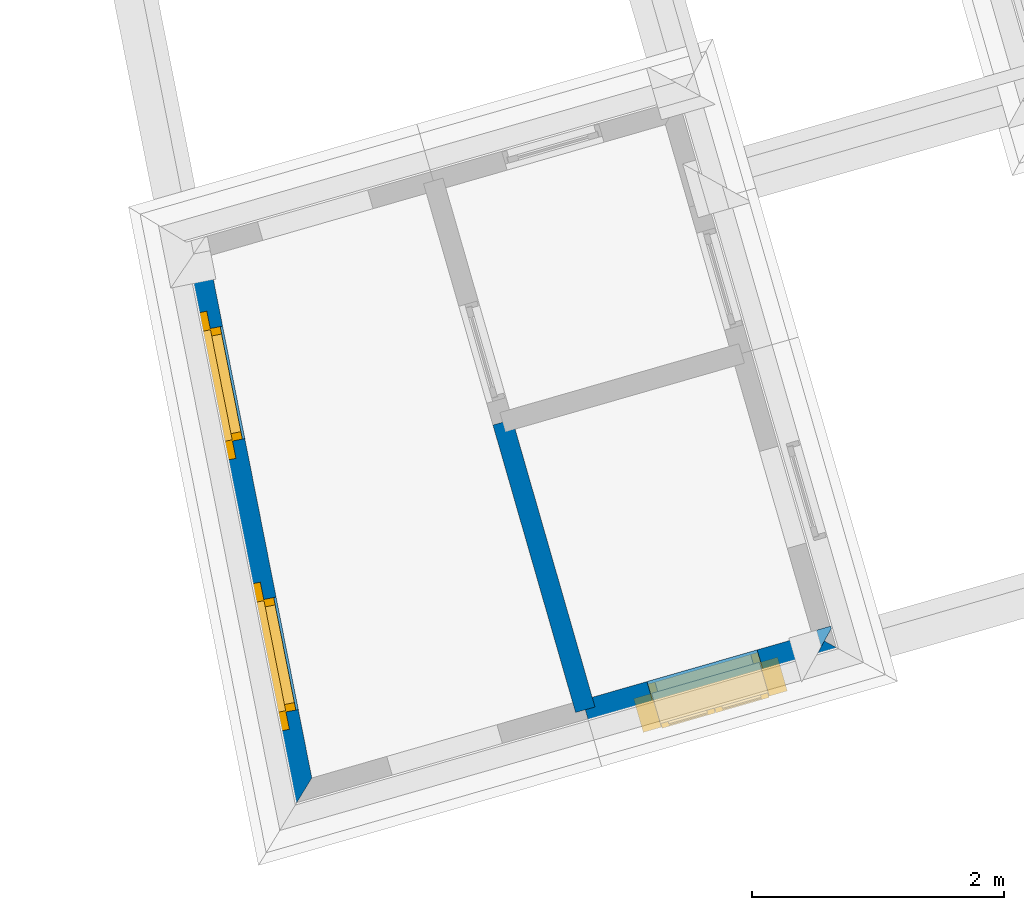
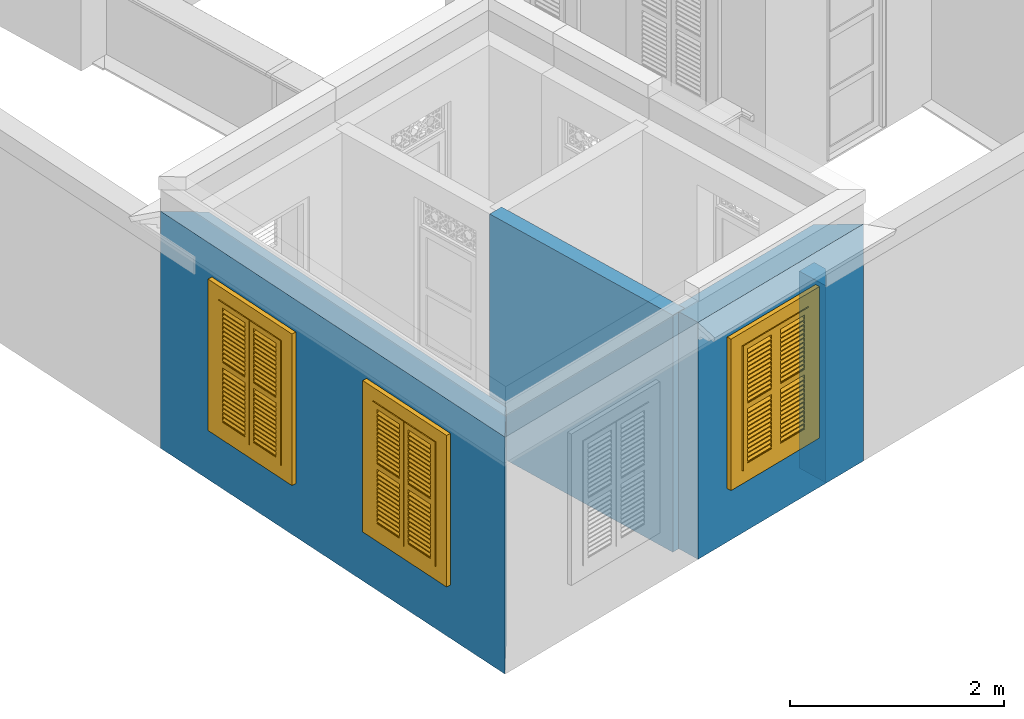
# One storey, part 2 of 22: 4 walls, 3 windows, 3 openings.
"""IFC4 building model written with IfcOpenShell, lengths in metres."""

from ifc_helpers import new_model, si_unit, frame, origin, origin_with_axes, place, context, subcontext, project, spatial, polyline, outline, extrude, clip, halfspace, faceted_brep, source, transform, mapped, material, layer, layer_set, layer_usage, material_profile, profile_set, profile_usage, type_object, type_shapes, element, fill, save


model = new_model("IFC4")

# Units and contexts
model_context = context("Model", 3, world=origin_with_axes())
body_context = subcontext(model_context, "Body", "Model", "MODEL_VIEW")
ifc_project = project(units=[si_unit("PLANEANGLEUNIT", "RADIAN"), si_unit("MASSUNIT", "GRAM", prefix="KILO"), si_unit("FORCEUNIT", "NEWTON", prefix="KILO"), si_unit("LENGTHUNIT", "METRE"), si_unit("AREAUNIT", "SQUARE_METRE"), si_unit("VOLUMEUNIT", "CUBIC_METRE")], contexts=[model_context, model_context])

# Site, building, storey
site_placement = place(None, origin_with_axes())
site = spatial("IfcSite", under=ifc_project, at=site_placement, Name="Site plot-9", CompositionType="ELEMENT")
building_placement = place(None, origin_with_axes())
building = spatial("IfcBuilding", under=site, at=building_placement, Name="Building plot-9", CompositionType="ELEMENT")
storey_placement = place(None, frame((0.0, 0.0, 2.85), z_axis=(0.0, 0.0, 1.0), x_axis=(1.0, 0.0, 0.0)))
storey = spatial("IfcBuildingStorey", under=building, at=storey_placement, Name="plot-9 1", CompositionType="ELEMENT", Elevation=2.85)

# Wall, openings, windows
ifc_material_1 = material(Name="Masonry")
ifc_layer_1 = layer(ifc_material_1, 0.33, ventilated=False)
ifc_layer_set_1 = layer_set([ifc_layer_1], Name="exterior_0.08_0.25")
ifc_layer_usage_1 = layer_usage(ifc_layer_set_1, "AXIS2", "POSITIVE", -0.25)
wall_type_1 = type_object("IfcWallType", Name="exterior_0.08_0.25", PredefinedType="SOLIDWALL", material=ifc_layer_set_1)
wall_1_placement = place(storey_placement, frame((-21.0720592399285, -2.48578105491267, 0.0), z_axis=(0.0, 0.0, 1.0), x_axis=(0.193675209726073, -0.981065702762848, 0.0)))
wall_1 = element("IfcWall", 1, at=wall_1_placement, inside=storey, type_object=wall_type_1, material=ifc_layer_usage_1, Name="exterior", context=body_context, shape_type="SweptSolid", body=[
    extrude(outline(polyline([(0.0734537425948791, 0.080000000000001), (-0.229542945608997, -0.25), (4.65454442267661, -0.25), (4.29513455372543, 0.0800000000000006), (0.0734537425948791, 0.080000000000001)])), origin_with_axes(), (0.0, 0.0, 1.0), 2.7),
])
opening_1_placement = place(wall_1_placement, frame((0.640566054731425, 0.0, 0.75)))
opening_1 = element("IfcOpeningElement", 2, at=opening_1_placement, cuts=wall_1, Name="My Opening", ObjectType="Opening", context=body_context, shape_type="SweptSolid", body=[
    extrude(outline(polyline([(0.0, -0.269999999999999), (0.91, -0.270000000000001), (0.91, 1.1), (1.11022302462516e-16, 1.1), (0.0, -0.269999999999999)])), origin_with_axes(), (0.0, 0.0, 1.0), 1.445),
])
opening_2_placement = place(wall_1_placement, frame((2.83169816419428, 0.0, 0.75)))
opening_2 = element("IfcOpeningElement", 3, at=opening_2_placement, cuts=wall_1, Name="My Opening", ObjectType="Opening", context=body_context, shape_type="SweptSolid", body=[
    extrude(outline(polyline([(0.0, -0.269999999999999), (0.91, -0.270000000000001), (0.91, 1.1), (0.0, 1.1), (0.0, -0.269999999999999)])), origin_with_axes(), (0.0, 0.0, 1.0), 1.445),
])
window_type = type_object("IfcWindowType", Name="shuttered_shorter", PartitioningType="DOUBLE_PANEL_HORIZONTAL", PredefinedType="NOTDEFINED")
shared_shape = source(origin(), body_context, "Body", "Brep", [
    faceted_brep([(0.393, 0.0, 0.622), (0.074, 0.0, 0.622), (0.074, 0.0, 0.632), (0.393, 0.0, 0.632), (0.074, -0.04, 0.592), (0.393, -0.04, 0.592), (0.393, -0.04, 0.582), (0.074, -0.04, 0.582), (0.517, 0.0, 0.682), (0.836, 0.0, 0.682), (0.836, 0.0, 0.672), (0.517, 0.0, 0.672), (0.517, -0.04, 0.642), (0.836, -0.04, 0.642), (0.836, -0.04, 0.632), (0.517, -0.04, 0.632), (0.517, 0.0, 0.632), (0.836, 0.0, 0.632), (0.836, 0.0, 0.622), (0.517, 0.0, 0.622), (0.517, -0.04, 0.592), (0.836, -0.04, 0.592), (0.836, -0.04, 0.582), (0.517, -0.04, 0.582), (0.517, 0.0, 0.232), (0.836, 0.0, 0.232), (0.836, 0.0, 0.222), (0.517, 0.0, 0.222), (0.517, -0.04, 0.192), (0.836, -0.04, 0.192), (0.836, -0.04, 0.182), (0.517, -0.04, 0.182), (0.517, 0.0, 0.532), (0.836, 0.0, 0.532), (0.836, 0.0, 0.522), (0.517, 0.0, 0.522), (0.517, -0.04, 0.492), (0.836, -0.04, 0.492), (0.836, -0.04, 0.482), (0.517, -0.04, 0.482), (0.517, 0.0, 0.482), (0.836, 0.0, 0.482), (0.836, 0.0, 0.472), (0.517, 0.0, 0.472), (0.517, -0.04, 0.442), (0.836, -0.04, 0.442), (0.836, -0.04, 0.432), (0.517, -0.04, 0.432), (0.517, 0.0, 0.582), (0.836, 0.0, 0.582), (0.836, 0.0, 0.572), (0.517, 0.0, 0.572), (0.517, -0.04, 0.542), (0.836, -0.04, 0.542), (0.836, -0.04, 0.532), (0.517, -0.04, 0.532), (0.517, 0.0, 0.182), (0.836, 0.0, 0.182), (0.836, 0.0, 0.172), (0.517, 0.0, 0.172), (0.517, -0.04, 0.142), (0.836, -0.04, 0.142), (0.836, -0.04, 0.132), (0.517, -0.04, 0.132), (0.517, 0.0, 0.382), (0.836, 0.0, 0.382), (0.836, 0.0, 0.372), (0.517, 0.0, 0.372), (0.517, -0.04, 0.342), (0.836, -0.04, 0.342), (0.836, -0.04, 0.332), (0.517, -0.04, 0.332), (0.517, 0.0, 0.432), (0.836, 0.0, 0.432), (0.836, 0.0, 0.422), (0.517, 0.0, 0.422), (0.517, -0.04, 0.392), (0.836, -0.04, 0.392), (0.836, -0.04, 0.382), (0.517, -0.04, 0.382), (0.517, 0.0, 0.132), (0.836, 0.0, 0.132), (0.836, 0.0, 0.122), (0.517, 0.0, 0.122), (0.517, -0.04, 0.092), (0.836, -0.04, 0.092), (0.836, -0.04, 0.082), (0.517, -0.04, 0.082), (0.517, 0.0, 0.282), (0.836, 0.0, 0.282), (0.836, 0.0, 0.272), (0.517, 0.0, 0.272), (0.517, -0.04, 0.242), (0.836, -0.04, 0.242), (0.836, -0.04, 0.232), (0.517, -0.04, 0.232), (0.517, 0.0, 0.332), (0.836, 0.0, 0.332), (0.836, 0.0, 0.322), (0.517, 0.0, 0.322), (0.517, -0.04, 0.292), (0.836, -0.04, 0.292), (0.836, -0.04, 0.282), (0.517, -0.04, 0.282), (0.517, 0.0, 1.362667), (0.836, 0.0, 1.362667), (0.836, 0.0, 1.352667), (0.517, 0.0, 1.352667), (0.517, -0.04, 1.322667), (0.836, -0.04, 1.322667), (0.836, -0.04, 1.312667), (0.517, -0.04, 1.312667), (0.517, 0.0, 1.312667), (0.836, 0.0, 1.312667), (0.836, 0.0, 1.302667), (0.517, 0.0, 1.302667), (0.517, -0.04, 1.272667), (0.836, -0.04, 1.272667), (0.836, -0.04, 1.262667), (0.517, -0.04, 1.262667), (0.517, 0.0, 0.912667), (0.836, 0.0, 0.912667), (0.836, 0.0, 0.902667), (0.517, 0.0, 0.902667), (0.517, -0.04, 0.872667), (0.836, -0.04, 0.872667), (0.836, -0.04, 0.862667), (0.517, -0.04, 0.862667), (0.517, 0.0, 1.212667), (0.836, 0.0, 1.212667), (0.836, 0.0, 1.202667), (0.517, 0.0, 1.202667), (0.517, -0.04, 1.172667), (0.836, -0.04, 1.172667), (0.836, -0.04, 1.162667), (0.517, -0.04, 1.162667), (0.517, 0.0, 1.162667), (0.836, 0.0, 1.162667), (0.836, 0.0, 1.152667), (0.517, 0.0, 1.152667), (0.517, -0.04, 1.122667), (0.836, -0.04, 1.122667), (0.836, -0.04, 1.112667), (0.517, -0.04, 1.112667), (0.517, 0.0, 1.262667), (0.836, 0.0, 1.262667), (0.836, 0.0, 1.252667), (0.517, 0.0, 1.252667), (0.517, -0.04, 1.222667), (0.836, -0.04, 1.222667), (0.836, -0.04, 1.212667), (0.517, -0.04, 1.212667), (0.517, 0.0, 0.862667), (0.836, 0.0, 0.862667), (0.836, 0.0, 0.852667), (0.517, 0.0, 0.852667), (0.517, -0.04, 0.822667), (0.836, -0.04, 0.822667), (0.836, -0.04, 0.812667), (0.517, -0.04, 0.812667), (0.517, 0.0, 1.062667), (0.836, 0.0, 1.062667), (0.836, 0.0, 1.052667), (0.517, 0.0, 1.052667), (0.517, -0.04, 1.022667), (0.836, -0.04, 1.022667), (0.836, -0.04, 1.012667), (0.517, -0.04, 1.012667), (0.517, 0.0, 1.112667), (0.836, 0.0, 1.112667), (0.836, 0.0, 1.102667), (0.517, 0.0, 1.102667), (0.517, -0.04, 1.072667), (0.836, -0.04, 1.072667), (0.836, -0.04, 1.062667), (0.517, -0.04, 1.062667), (0.517, 0.0, 0.812667), (0.836, 0.0, 0.812667), (0.836, 0.0, 0.802667), (0.517, 0.0, 0.802667), (0.517, -0.04, 0.772667), (0.836, -0.04, 0.772667), (0.836, -0.04, 0.762667), (0.517, -0.04, 0.762667), (0.517, 0.0, 0.962667), (0.836, 0.0, 0.962667), (0.836, 0.0, 0.952667), (0.517, 0.0, 0.952667), (0.517, -0.04, 0.922667), (0.836, -0.04, 0.922667), (0.836, -0.04, 0.912667), (0.517, -0.04, 0.912667), (0.517, 0.0, 1.012667), (0.836, 0.0, 1.012667), (0.836, 0.0, 1.002667), (0.517, 0.0, 1.002667), (0.517, -0.04, 0.972667), (0.836, -0.04, 0.972667), (0.836, -0.04, 0.962667), (0.517, -0.04, 0.962667), (0.074, 0.0, 0.682), (0.393, 0.0, 0.682), (0.393, 0.0, 0.672), (0.074, 0.0, 0.672), (0.074, -0.04, 0.642), (0.393, -0.04, 0.642), (0.393, -0.04, 0.632), (0.074, -0.04, 0.632), (0.074, 0.0, 0.232), (0.393, 0.0, 0.232), (0.393, 0.0, 0.222), (0.074, 0.0, 0.222), (0.074, -0.04, 0.192), (0.393, -0.04, 0.192), (0.393, -0.04, 0.182), (0.074, -0.04, 0.182), (0.074, 0.0, 0.532), (0.393, 0.0, 0.532), (0.393, 0.0, 0.522), (0.074, 0.0, 0.522), (0.074, -0.04, 0.492), (0.393, -0.04, 0.492), (0.393, -0.04, 0.482), (0.074, -0.04, 0.482), (0.074, 0.0, 0.482), (0.393, 0.0, 0.482), (0.393, 0.0, 0.472), (0.074, 0.0, 0.472), (0.074, -0.04, 0.442), (0.393, -0.04, 0.442), (0.393, -0.04, 0.432), (0.074, -0.04, 0.432), (0.074, 0.0, 0.582), (0.393, 0.0, 0.582), (0.393, 0.0, 0.572), (0.074, 0.0, 0.572), (0.074, -0.04, 0.542), (0.393, -0.04, 0.542), (0.393, -0.04, 0.532), (0.074, -0.04, 0.532), (0.074, 0.0, 0.182), (0.393, 0.0, 0.182), (0.393, 0.0, 0.172), (0.074, 0.0, 0.172), (0.074, -0.04, 0.142), (0.393, -0.04, 0.142), (0.393, -0.04, 0.132), (0.074, -0.04, 0.132), (0.074, 0.0, 0.382), (0.393, 0.0, 0.382), (0.393, 0.0, 0.372), (0.074, 0.0, 0.372), (0.074, -0.04, 0.342), (0.393, -0.04, 0.342), (0.393, -0.04, 0.332), (0.074, -0.04, 0.332), (0.074, 0.0, 0.432), (0.393, 0.0, 0.432), (0.393, 0.0, 0.422), (0.074, 0.0, 0.422), (0.074, -0.04, 0.392), (0.393, -0.04, 0.392), (0.393, -0.04, 0.382), (0.074, -0.04, 0.382), (0.074, 0.0, 0.132), (0.393, 0.0, 0.132), (0.393, 0.0, 0.122), (0.074, 0.0, 0.122), (0.074, -0.04, 0.092), (0.393, -0.04, 0.092), (0.393, -0.04, 0.082), (0.074, -0.04, 0.082), (0.074, 0.0, 0.282), (0.393, 0.0, 0.282), (0.393, 0.0, 0.272), (0.074, 0.0, 0.272), (0.074, -0.04, 0.242), (0.393, -0.04, 0.242), (0.393, -0.04, 0.232), (0.074, -0.04, 0.232), (0.074, 0.0, 0.332), (0.393, 0.0, 0.332), (0.393, 0.0, 0.322), (0.074, 0.0, 0.322), (0.074, -0.04, 0.292), (0.393, -0.04, 0.292), (0.393, -0.04, 0.282), (0.074, -0.04, 0.282), (0.074, 0.0, 1.362667), (0.393, 0.0, 1.362667), (0.393, 0.0, 1.352667), (0.074, 0.0, 1.352667), (0.074, -0.04, 1.322667), (0.393, -0.04, 1.322667), (0.393, -0.04, 1.312667), (0.074, -0.04, 1.312667), (0.074, 0.0, 1.312667), (0.393, 0.0, 1.312667), (0.393, 0.0, 1.302667), (0.074, 0.0, 1.302667), (0.074, -0.04, 1.272667), (0.393, -0.04, 1.272667), (0.393, -0.04, 1.262667), (0.074, -0.04, 1.262667), (0.074, 0.0, 0.912667), (0.393, 0.0, 0.912667), (0.393, 0.0, 0.902667), (0.074, 0.0, 0.902667), (0.074, -0.04, 0.872667), (0.393, -0.04, 0.872667), (0.393, -0.04, 0.862667), (0.074, -0.04, 0.862667), (0.074, 0.0, 1.212667), (0.393, 0.0, 1.212667), (0.393, 0.0, 1.202667), (0.074, 0.0, 1.202667), (0.074, -0.04, 1.172667), (0.393, -0.04, 1.172667), (0.393, -0.04, 1.162667), (0.074, -0.04, 1.162667), (0.074, 0.0, 1.162667), (0.393, 0.0, 1.162667), (0.393, 0.0, 1.152667), (0.074, 0.0, 1.152667), (0.074, -0.04, 1.122667), (0.393, -0.04, 1.122667), (0.393, -0.04, 1.112667), (0.074, -0.04, 1.112667), (0.074, 0.0, 1.262667), (0.393, 0.0, 1.262667), (0.393, 0.0, 1.252667), (0.074, 0.0, 1.252667), (0.074, -0.04, 1.222667), (0.393, -0.04, 1.222667), (0.393, -0.04, 1.212667), (0.074, -0.04, 1.212667), (0.074, 0.0, 0.862667), (0.393, 0.0, 0.862667), (0.393, 0.0, 0.852667), (0.074, 0.0, 0.852667), (0.074, -0.04, 0.822667), (0.393, -0.04, 0.822667), (0.393, -0.04, 0.812667), (0.074, -0.04, 0.812667), (0.074, 0.0, 1.062667), (0.393, 0.0, 1.062667), (0.393, 0.0, 1.052667), (0.074, 0.0, 1.052667), (0.074, -0.04, 1.022667), (0.393, -0.04, 1.022667), (0.393, -0.04, 1.012667), (0.074, -0.04, 1.012667), (0.074, 0.0, 1.112667), (0.393, 0.0, 1.112667), (0.393, 0.0, 1.102667), (0.074, 0.0, 1.102667), (0.074, -0.04, 1.072667), (0.393, -0.04, 1.072667), (0.393, -0.04, 1.062667), (0.074, -0.04, 1.062667), (0.074, 0.0, 0.812667), (0.393, 0.0, 0.812667), (0.393, 0.0, 0.802667), (0.074, 0.0, 0.802667), (0.074, -0.04, 0.772667), (0.393, -0.04, 0.772667), (0.393, -0.04, 0.762667), (0.074, -0.04, 0.762667), (0.074, 0.0, 0.962667), (0.393, 0.0, 0.962667), (0.393, 0.0, 0.952667), (0.074, 0.0, 0.952667), (0.074, -0.04, 0.922667), (0.393, -0.04, 0.922667), (0.393, -0.04, 0.912667), (0.074, -0.04, 0.912667), (0.074, 0.0, 1.012667), (0.393, 0.0, 1.012667), (0.393, 0.0, 1.002667), (0.074, 0.0, 1.002667), (0.074, -0.04, 0.972667), (0.393, -0.04, 0.972667), (0.393, -0.04, 0.962667), (0.074, -0.04, 0.962667), (0.517, -0.04, 0.072), (0.457, -0.04, 0.012), (0.896, -0.04, 0.012), (0.836, -0.04, 0.072), (0.457, -0.04, 0.692667), (0.517, -0.04, 0.692667), (0.457, 0.0, 0.012), (0.896, 0.0, 0.012), (0.836, -0.04, 0.692667), (0.896, -0.04, 0.692667), (0.836, 0.0, 0.072), (0.517, 0.0, 0.072), (0.457, 0.0, 0.692667), (0.517, 0.0, 0.692667), (0.517, -0.04, 0.752666), (0.457, -0.04, 0.752666), (0.896, 0.0, 0.692667), (0.836, 0.0, 0.692667), (0.836, -0.04, 0.752666), (0.896, -0.04, 0.752666), (0.457, 0.0, 0.752666), (0.457, -0.04, 1.433333), (0.517, -0.04, 1.373333), (0.896, 0.0, 0.752666), (0.836, -0.04, 1.373333), (0.896, -0.04, 1.433333), (0.457, 0.0, 1.433333), (0.517, 0.0, 0.752666), (0.836, 0.0, 0.752666), (0.517, 0.0, 1.373333), (0.896, 0.0, 1.433333), (0.836, 0.0, 1.373333), (0.074, -0.04, 0.072), (0.014, -0.04, 0.012), (0.453, -0.04, 0.012), (0.393, -0.04, 0.072), (0.014, -0.04, 0.692667), (0.074, -0.04, 0.692667), (0.014, 0.0, 0.012), (0.453, 0.0, 0.012), (0.393, -0.04, 0.692667), (0.453, -0.04, 0.692667), (0.393, 0.0, 0.072), (0.074, 0.0, 0.072), (0.014, 0.0, 0.692667), (0.074, 0.0, 0.692667), (0.074, -0.04, 0.752666), (0.014, -0.04, 0.752666), (0.453, 0.0, 0.692667), (0.393, 0.0, 0.692667), (0.393, -0.04, 0.752666), (0.453, -0.04, 0.752666), (0.014, 0.0, 0.752666), (0.014, -0.04, 1.433333), (0.074, -0.04, 1.373333), (0.453, 0.0, 0.752666), (0.393, -0.04, 1.373333), (0.453, -0.04, 1.433333), (0.014, 0.0, 1.433333), (0.074, 0.0, 0.752666), (0.393, 0.0, 0.752666), (0.074, 0.0, 1.373333), (0.453, 0.0, 1.433333), (0.393, 0.0, 1.373333), (0.0, 0.33, 1.445), (0.91, 0.33, 1.445), (0.85, 0.33, 1.385), (0.06, 0.33, 1.385), (0.91, 0.25, 1.445), (0.0, 0.25, 1.445), (0.91, 0.25, 1.445), (0.85, 0.33, 0.06), (0.91, 0.33, 0.0), (0.85, 0.25, 1.385), (0.06, 0.25, 1.385), (0.0, 0.33, 0.0), (0.06, 0.33, 0.06), (0.0, 0.25, 0.0), (0.91, 0.25, 0.0), (0.85, 0.25, 0.06), (0.06, 0.25, 0.06), (1.05, 0.25, 1.585), (-0.14, 0.25, 1.585), (-0.14, -0.03, 1.585), (1.05, -0.03, 1.585), (0.9, -0.03, 1.435), (0.01, -0.03, 1.435), (0.01, 0.25, 1.435), (0.9, 0.25, 1.435), (0.9, 0.25, 0.01), (0.9, -0.03, 0.01), (1.05, -0.03, -0.14), (1.05, 0.25, -0.14), (0.01, -0.03, 0.01), (0.01, 0.25, 0.01), (-0.14, -0.03, -0.14), (-0.14, 0.25, -0.14)], [[[0, 1, 2, 3]], [[4, 5, 3, 2]], [[5, 6, 0, 3]], [[1, 0, 6, 7]], [[2, 1, 7, 4]], [[5, 4, 7, 6]], [[8, 9, 10, 11]], [[12, 13, 9, 8]], [[13, 14, 10, 9]], [[14, 15, 11, 10]], [[15, 12, 8, 11]], [[13, 12, 15, 14]], [[16, 17, 18, 19]], [[20, 21, 17, 16]], [[21, 22, 18, 17]], [[22, 23, 19, 18]], [[23, 20, 16, 19]], [[21, 20, 23, 22]], [[24, 25, 26, 27]], [[28, 29, 25, 24]], [[29, 30, 26, 25]], [[30, 31, 27, 26]], [[31, 28, 24, 27]], [[29, 28, 31, 30]], [[32, 33, 34, 35]], [[36, 37, 33, 32]], [[37, 38, 34, 33]], [[38, 39, 35, 34]], [[39, 36, 32, 35]], [[37, 36, 39, 38]], [[40, 41, 42, 43]], [[44, 45, 41, 40]], [[45, 46, 42, 41]], [[46, 47, 43, 42]], [[47, 44, 40, 43]], [[45, 44, 47, 46]], [[48, 49, 50, 51]], [[52, 53, 49, 48]], [[53, 54, 50, 49]], [[54, 55, 51, 50]], [[55, 52, 48, 51]], [[53, 52, 55, 54]], [[56, 57, 58, 59]], [[60, 61, 57, 56]], [[61, 62, 58, 57]], [[62, 63, 59, 58]], [[63, 60, 56, 59]], [[61, 60, 63, 62]], [[64, 65, 66, 67]], [[68, 69, 65, 64]], [[69, 70, 66, 65]], [[70, 71, 67, 66]], [[71, 68, 64, 67]], [[69, 68, 71, 70]], [[72, 73, 74, 75]], [[76, 77, 73, 72]], [[77, 78, 74, 73]], [[78, 79, 75, 74]], [[79, 76, 72, 75]], [[77, 76, 79, 78]], [[80, 81, 82, 83]], [[84, 85, 81, 80]], [[85, 86, 82, 81]], [[86, 87, 83, 82]], [[87, 84, 80, 83]], [[85, 84, 87, 86]], [[88, 89, 90, 91]], [[92, 93, 89, 88]], [[93, 94, 90, 89]], [[94, 95, 91, 90]], [[95, 92, 88, 91]], [[93, 92, 95, 94]], [[96, 97, 98, 99]], [[100, 101, 97, 96]], [[101, 102, 98, 97]], [[102, 103, 99, 98]], [[103, 100, 96, 99]], [[101, 100, 103, 102]], [[104, 105, 106, 107]], [[108, 109, 105, 104]], [[109, 110, 106, 105]], [[110, 111, 107, 106]], [[111, 108, 104, 107]], [[109, 108, 111, 110]], [[112, 113, 114, 115]], [[116, 117, 113, 112]], [[117, 118, 114, 113]], [[118, 119, 115, 114]], [[119, 116, 112, 115]], [[117, 116, 119, 118]], [[120, 121, 122, 123]], [[124, 125, 121, 120]], [[125, 126, 122, 121]], [[126, 127, 123, 122]], [[127, 124, 120, 123]], [[125, 124, 127, 126]], [[128, 129, 130, 131]], [[132, 133, 129, 128]], [[133, 134, 130, 129]], [[134, 135, 131, 130]], [[135, 132, 128, 131]], [[133, 132, 135, 134]], [[136, 137, 138, 139]], [[140, 141, 137, 136]], [[141, 142, 138, 137]], [[142, 143, 139, 138]], [[139, 143, 140, 136]], [[141, 140, 143, 142]], [[144, 145, 146, 147]], [[148, 149, 145, 144]], [[149, 150, 146, 145]], [[150, 151, 147, 146]], [[151, 148, 144, 147]], [[149, 148, 151, 150]], [[152, 153, 154, 155]], [[156, 157, 153, 152]], [[157, 158, 154, 153]], [[158, 159, 155, 154]], [[159, 156, 152, 155]], [[157, 156, 159, 158]], [[160, 161, 162, 163]], [[164, 165, 161, 160]], [[165, 166, 162, 161]], [[166, 167, 163, 162]], [[167, 164, 160, 163]], [[165, 164, 167, 166]], [[168, 169, 170, 171]], [[172, 173, 169, 168]], [[173, 174, 170, 169]], [[174, 175, 171, 170]], [[175, 172, 168, 171]], [[173, 172, 175, 174]], [[176, 177, 178, 179]], [[180, 181, 177, 176]], [[181, 182, 178, 177]], [[182, 183, 179, 178]], [[183, 180, 176, 179]], [[181, 180, 183, 182]], [[184, 185, 186, 187]], [[188, 189, 185, 184]], [[189, 190, 186, 185]], [[190, 191, 187, 186]], [[191, 188, 184, 187]], [[189, 188, 191, 190]], [[192, 193, 194, 195]], [[196, 197, 193, 192]], [[197, 198, 194, 193]], [[198, 199, 195, 194]], [[199, 196, 192, 195]], [[197, 196, 199, 198]], [[200, 201, 202, 203]], [[204, 205, 201, 200]], [[205, 206, 202, 201]], [[206, 207, 203, 202]], [[207, 204, 200, 203]], [[205, 204, 207, 206]], [[208, 209, 210, 211]], [[212, 213, 209, 208]], [[213, 214, 210, 209]], [[214, 215, 211, 210]], [[215, 212, 208, 211]], [[213, 212, 215, 214]], [[216, 217, 218, 219]], [[220, 221, 217, 216]], [[221, 222, 218, 217]], [[222, 223, 219, 218]], [[223, 220, 216, 219]], [[221, 220, 223, 222]], [[224, 225, 226, 227]], [[228, 229, 225, 224]], [[229, 230, 226, 225]], [[230, 231, 227, 226]], [[231, 228, 224, 227]], [[229, 228, 231, 230]], [[232, 233, 234, 235]], [[236, 237, 233, 232]], [[237, 238, 234, 233]], [[238, 239, 235, 234]], [[239, 236, 232, 235]], [[237, 236, 239, 238]], [[240, 241, 242, 243]], [[244, 245, 241, 240]], [[245, 246, 242, 241]], [[246, 247, 243, 242]], [[247, 244, 240, 243]], [[245, 244, 247, 246]], [[248, 249, 250, 251]], [[252, 253, 249, 248]], [[253, 254, 250, 249]], [[254, 255, 251, 250]], [[255, 252, 248, 251]], [[253, 252, 255, 254]], [[256, 257, 258, 259]], [[260, 261, 257, 256]], [[261, 262, 258, 257]], [[262, 263, 259, 258]], [[263, 260, 256, 259]], [[261, 260, 263, 262]], [[264, 265, 266, 267]], [[268, 269, 265, 264]], [[269, 270, 266, 265]], [[270, 271, 267, 266]], [[271, 268, 264, 267]], [[269, 268, 271, 270]], [[272, 273, 274, 275]], [[276, 277, 273, 272]], [[277, 278, 274, 273]], [[278, 279, 275, 274]], [[279, 276, 272, 275]], [[277, 276, 279, 278]], [[280, 281, 282, 283]], [[284, 285, 281, 280]], [[285, 286, 282, 281]], [[286, 287, 283, 282]], [[287, 284, 280, 283]], [[285, 284, 287, 286]], [[288, 289, 290, 291]], [[292, 293, 289, 288]], [[293, 294, 290, 289]], [[294, 295, 291, 290]], [[295, 292, 288, 291]], [[293, 292, 295, 294]], [[296, 297, 298, 299]], [[300, 301, 297, 296]], [[301, 302, 298, 297]], [[302, 303, 299, 298]], [[303, 300, 296, 299]], [[301, 300, 303, 302]], [[304, 305, 306, 307]], [[308, 309, 305, 304]], [[309, 310, 306, 305]], [[310, 311, 307, 306]], [[311, 308, 304, 307]], [[309, 308, 311, 310]], [[312, 313, 314, 315]], [[316, 317, 313, 312]], [[317, 318, 314, 313]], [[318, 319, 315, 314]], [[319, 316, 312, 315]], [[317, 316, 319, 318]], [[320, 321, 322, 323]], [[324, 325, 321, 320]], [[325, 326, 322, 321]], [[326, 327, 323, 322]], [[327, 324, 320, 323]], [[325, 324, 327, 326]], [[328, 329, 330, 331]], [[332, 333, 329, 328]], [[333, 334, 330, 329]], [[334, 335, 331, 330]], [[335, 332, 328, 331]], [[333, 332, 335, 334]], [[336, 337, 338, 339]], [[340, 341, 337, 336]], [[341, 342, 338, 337]], [[342, 343, 339, 338]], [[343, 340, 336, 339]], [[341, 340, 343, 342]], [[344, 345, 346, 347]], [[348, 349, 345, 344]], [[349, 350, 346, 345]], [[350, 351, 347, 346]], [[351, 348, 344, 347]], [[349, 348, 351, 350]], [[352, 353, 354, 355]], [[356, 357, 353, 352]], [[357, 358, 354, 353]], [[358, 359, 355, 354]], [[359, 356, 352, 355]], [[357, 356, 359, 358]], [[360, 361, 362, 363]], [[364, 365, 361, 360]], [[365, 366, 362, 361]], [[366, 367, 363, 362]], [[367, 364, 360, 363]], [[365, 364, 367, 366]], [[368, 369, 370, 371]], [[372, 373, 369, 368]], [[373, 374, 370, 369]], [[374, 375, 371, 370]], [[375, 372, 368, 371]], [[373, 372, 375, 374]], [[376, 377, 378, 379]], [[380, 381, 377, 376]], [[381, 382, 378, 377]], [[382, 383, 379, 378]], [[383, 380, 376, 379]], [[381, 380, 383, 382]], [[384, 385, 386, 387]], [[388, 385, 384, 389]], [[390, 391, 386, 385]], [[392, 387, 386, 393]], [[384, 387, 394, 395]], [[390, 385, 388, 396]], [[389, 384, 395, 397]], [[389, 398, 399, 388]], [[390, 395, 394, 391]], [[400, 393, 386, 391]], [[387, 392, 401, 394]], [[402, 392, 393, 403]], [[396, 388, 399, 404]], [[390, 396, 397, 395]], [[392, 389, 397, 401]], [[398, 389, 392, 402]], [[405, 399, 398, 406]], [[394, 401, 400, 391]], [[407, 403, 393, 400]], [[408, 402, 403, 409]], [[404, 399, 405, 410]], [[411, 397, 396, 404]], [[397, 411, 412, 401]], [[398, 402, 412, 411]], [[406, 398, 411, 413]], [[405, 406, 408, 409]], [[401, 412, 407, 400]], [[414, 409, 403, 407]], [[402, 408, 415, 412]], [[405, 409, 414, 410]], [[404, 410, 413, 411]], [[408, 406, 413, 415]], [[412, 415, 414, 407]], [[413, 410, 414, 415]], [[416, 417, 418, 419]], [[420, 417, 416, 421]], [[422, 423, 418, 417]], [[424, 419, 418, 425]], [[416, 419, 426, 427]], [[422, 417, 420, 428]], [[421, 416, 427, 429]], [[421, 430, 431, 420]], [[422, 427, 426, 423]], [[432, 425, 418, 423]], [[419, 424, 433, 426]], [[434, 424, 425, 435]], [[428, 420, 431, 436]], [[422, 428, 429, 427]], [[424, 421, 429, 433]], [[430, 421, 424, 434]], [[437, 431, 430, 438]], [[426, 433, 432, 423]], [[439, 435, 425, 432]], [[440, 434, 435, 441]], [[436, 431, 437, 442]], [[443, 429, 428, 436]], [[429, 443, 444, 433]], [[430, 434, 444, 443]], [[438, 430, 443, 445]], [[437, 438, 440, 441]], [[433, 444, 439, 432]], [[446, 441, 435, 439]], [[434, 440, 447, 444]], [[437, 441, 446, 442]], [[436, 442, 445, 443]], [[440, 438, 445, 447]], [[444, 447, 446, 439]], [[445, 442, 446, 447]], [[448, 449, 450, 451]], [[452, 449, 448]], [[448, 453, 454]], [[448, 454, 452]], [[455, 450, 449, 456]], [[451, 450, 457, 458]], [[459, 448, 451, 460]], [[448, 459, 461, 453]], [[454, 453, 458, 457]], [[462, 452, 454]], [[454, 457, 463]], [[454, 463, 462]], [[456, 449, 452, 462]], [[450, 455, 463, 457]], [[456, 459, 460, 455]], [[460, 451, 458, 464]], [[459, 456, 462, 461]], [[464, 458, 453, 461]], [[461, 462, 463, 464]], [[455, 460, 464, 463]], [[465, 466, 467, 468]], [[469, 470, 471, 472]], [[473, 474, 469, 472]], [[465, 468, 475, 476]], [[470, 477, 478, 471]], [[474, 473, 478, 477]], [[474, 477, 479, 475]], [[470, 467, 479, 477]], [[470, 469, 468, 467]], [[474, 475, 468, 469]], [[471, 478, 480, 466]], [[473, 472, 465, 476]], [[473, 476, 480, 478]], [[466, 465, 472, 471]], [[480, 476, 475, 479]], [[480, 479, 467, 466]]]),
])
type_shapes(window_type, [shared_shape])
window_1_placement = place(storey_placement, frame((-21.212885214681, -3.16651074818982, 0.75), z_axis=(0.0, 0.0, 1.0), x_axis=(0.176244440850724, -0.892769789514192, 0.0)))
window_1 = element("IfcWindow", 4, at=window_1_placement, inside=storey, type_object=window_type, Name="bedroom outside window", OverallHeight=1.445, OverallWidth=0.91, context=body_context, shape_type="MappedRepresentation", body=[
    mapped(shared_shape, transform((0.0, 0.0, 0.0), scale=1.0)),
])
fill(opening_1, window_1)
window_2_placement = place(storey_placement, frame((-20.7885172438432, -5.31615531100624, 0.75), z_axis=(0.0, 0.0, 1.0), x_axis=(0.176244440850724, -0.892769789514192, 0.0)))
window_2 = element("IfcWindow", 5, at=window_2_placement, inside=storey, type_object=window_type, Name="bedroom outside window", OverallHeight=1.445, OverallWidth=0.91, context=body_context, shape_type="MappedRepresentation", body=[
    mapped(shared_shape, transform((0.0, 0.0, 0.0), scale=1.0)),
])
fill(opening_2, window_2)

# Wall, opening, window
wall_2_placement = place(storey_placement, frame((-17.9919175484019, -6.14299898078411, 0.0), z_axis=(0.0, 0.0, 1.0), x_axis=(0.961007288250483, 0.276523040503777, 0.0)))
wall_2 = element("IfcWall", 6, at=wall_2_placement, inside=storey, type_object=wall_type_1, material=ifc_layer_usage_1, Name="exterior", context=body_context, shape_type="SweptSolid", body=[
    extrude(outline(polyline([(-5.63535601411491e-16, 0.0800000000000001), (-6.50825729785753e-16, -0.25), (2.22442354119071, -0.249999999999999), (1.89442354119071, 0.0799999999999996), (-5.63535601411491e-16, 0.0800000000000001)])), origin_with_axes(), (0.0, 0.0, 1.0), 2.7),
])
opening_3_placement = place(wall_2_placement, frame((0.532211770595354, 0.0, 0.75)))
opening_3 = element("IfcOpeningElement", 7, at=opening_3_placement, cuts=wall_2, Name="My Opening", ObjectType="Opening", context=body_context, shape_type="SweptSolid", body=[
    extrude(outline(polyline([(0.0, -0.269999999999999), (0.910000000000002, -0.27), (0.910000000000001, 1.1), (-5.55111512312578e-16, 1.1), (0.0, -0.269999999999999)])), origin_with_axes(), (0.0, 0.0, 1.0), 1.445),
])
window_3_placement = place(storey_placement, frame((-17.4057969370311, -6.25530213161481, 0.75), z_axis=(0.0, 0.0, 1.0), x_axis=(0.874516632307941, 0.251635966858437, 0.0)))
window_3 = element("IfcWindow", 8, at=window_3_placement, inside=storey, type_object=window_type, Name="bedroom outside window", OverallHeight=1.445, OverallWidth=0.91, context=body_context, shape_type="MappedRepresentation", body=[
    mapped(shared_shape, transform((0.0, 0.0, 0.0), scale=1.0)),
])
fill(opening_3, window_3)

# Walls
ifc_material_2 = material(Name="Masonry")
ifc_layer_2 = layer(ifc_material_2, 0.16, ventilated=False)
ifc_layer_set_2 = layer_set([ifc_layer_2], Name="interior_0.08_0.08")
ifc_layer_usage_2 = layer_usage(ifc_layer_set_2, "AXIS2", "POSITIVE", -0.08)
wall_type_2 = type_object("IfcWallType", Name="interior_0.08_0.08", PredefinedType="SOLIDWALL", material=ifc_layer_set_2)
wall_3_placement = place(storey_placement, frame((-18.6477589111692, -3.86146652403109, 0.0), z_axis=(0.0, 0.0, 1.0), x_axis=(0.276268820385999, -0.961080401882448, 0.0)))
element("IfcWall", 9, at=wall_3_placement, inside=storey, type_object=wall_type_2, material=ifc_layer_usage_2, Name="interior", context=body_context, shape_type="SweptSolid", body=[
    extrude(outline(polyline([(-4.56954191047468e-16, 0.0799999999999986), (4.11629879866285e-16, -0.0799999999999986), (2.37392465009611, -0.0799999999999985), (2.37392465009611, 0.0799999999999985), (-4.56954191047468e-16, 0.0799999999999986)])), origin_with_axes(), (0.0, 0.0, 1.0), 2.7),
])
ifc_material_profile = material_profile(None, outline(polyline([(0.25, 0.0), (0.25, 2.245), (0.05, 2.245), (0.05, 0.02), (-0.08, 0.02), (-0.08, 0.0), (0.25, 0.0)])))
ifc_profile_set = profile_set([ifc_material_profile])
ifc_profile_usage = profile_usage(ifc_profile_set)
wall_type_3 = type_object("IfcWallType", Name="parapet street_0", PredefinedType="PARAPET", material=ifc_profile_set)
wall_4_placement = place(storey_placement, frame((-15.8179590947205, -6.5580326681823, 0.0), z_axis=(-0.276523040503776, 0.961007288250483, 0.0), x_axis=(-0.961007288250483, -0.276523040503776, 0.0)))
element("IfcWall", 10, at=wall_4_placement, inside=storey, type_object=wall_type_3, material=ifc_profile_usage, Name="parapet street_0", context=body_context, shape_type="Clipping", body=[
    clip(clip(extrude(outline(polyline([(0.25, 0.0), (0.25, 2.245), (0.05, 2.245), (0.05, 0.02), (-0.08, 0.02), (-0.08, 0.0), (0.25, 0.0)])), origin_with_axes(), (0.0, 0.0, 1.0), 2.1), halfspace(frame((0.0, 0.0, 1.1), z_axis=(-6.12323399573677e-17, 0.0, -1.0), x_axis=(0.0, 1.0, 0.0)), True)), halfspace(frame((0.0, 0.0, 1.0), z_axis=(-0.707106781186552, 0.0, -0.707106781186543), x_axis=(0.0, 1.0, 0.0)), False)),
])

save(model, "model.ifc")
